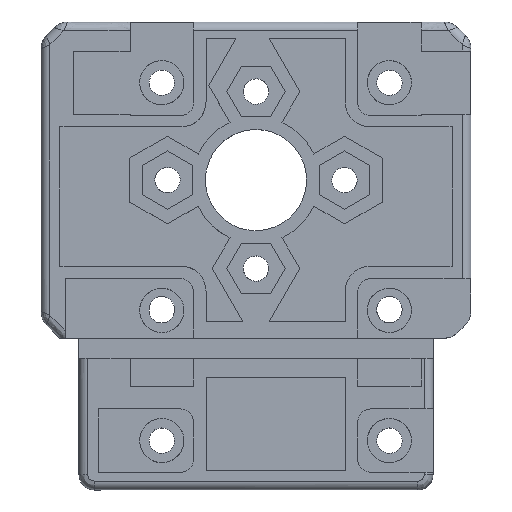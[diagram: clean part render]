
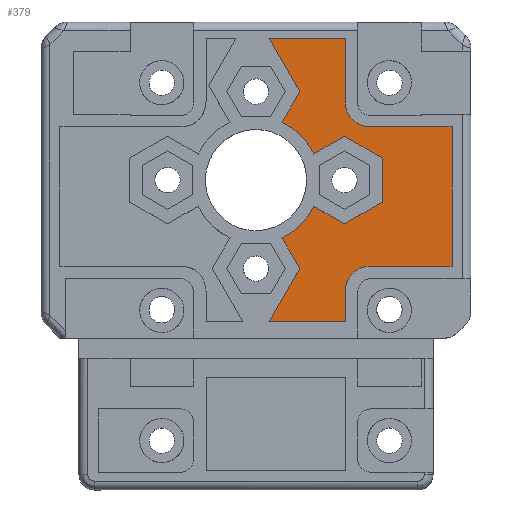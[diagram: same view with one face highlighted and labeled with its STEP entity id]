
A CAD part, top view. The second image highlights one B-rep face of the part: STEP entity #379.
In plain terms, the highlighted planar face has unit normal (0, 0, 1) as drawn and (0, 0, -1) by its records, which use the part's own axes.
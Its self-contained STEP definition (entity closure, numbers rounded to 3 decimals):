
#379=ADVANCED_FACE($,(#802),#5200,.T.);
#802=FACE_OUTER_BOUND($,#1225,.T.);
#1225=EDGE_LOOP($,(#3116,#3117,#3118,#3119,#3120,#3121,#3122,#3123,#3124,
#3125,#3126,#3127,#3128,#3129,#3130,#3131,#3132,#3133,#3134,#3135));
#3116=ORIENTED_EDGE($,*,*,#4161,.T.);
#3117=ORIENTED_EDGE($,*,*,#4180,.T.);
#3118=ORIENTED_EDGE($,*,*,#4179,.T.);
#3119=ORIENTED_EDGE($,*,*,#4178,.T.);
#3120=ORIENTED_EDGE($,*,*,#4177,.T.);
#3121=ORIENTED_EDGE($,*,*,#4176,.T.);
#3122=ORIENTED_EDGE($,*,*,#4175,.T.);
#3123=ORIENTED_EDGE($,*,*,#4174,.T.);
#3124=ORIENTED_EDGE($,*,*,#4173,.T.);
#3125=ORIENTED_EDGE($,*,*,#4172,.T.);
#3126=ORIENTED_EDGE($,*,*,#4171,.T.);
#3127=ORIENTED_EDGE($,*,*,#4170,.T.);
#3128=ORIENTED_EDGE($,*,*,#4169,.T.);
#3129=ORIENTED_EDGE($,*,*,#4168,.T.);
#3130=ORIENTED_EDGE($,*,*,#4167,.T.);
#3131=ORIENTED_EDGE($,*,*,#4166,.T.);
#3132=ORIENTED_EDGE($,*,*,#4165,.T.);
#3133=ORIENTED_EDGE($,*,*,#4164,.T.);
#3134=ORIENTED_EDGE($,*,*,#4163,.T.);
#3135=ORIENTED_EDGE($,*,*,#4162,.T.);
#4161=EDGE_CURVE($,#4825,#4826,#6166,.T.);
#4162=EDGE_CURVE($,#4827,#4825,#5417,.T.);
#4163=EDGE_CURVE($,#4828,#4827,#6167,.T.);
#4164=EDGE_CURVE($,#4829,#4828,#6168,.T.);
#4165=EDGE_CURVE($,#4830,#4829,#6169,.T.);
#4166=EDGE_CURVE($,#4831,#4830,#6170,.T.);
#4167=EDGE_CURVE($,#4832,#4831,#5418,.T.);
#4168=EDGE_CURVE($,#4833,#4832,#6171,.T.);
#4169=EDGE_CURVE($,#4834,#4833,#6172,.T.);
#4170=EDGE_CURVE($,#4835,#4834,#6173,.T.);
#4171=EDGE_CURVE($,#4836,#4835,#6174,.T.);
#4172=EDGE_CURVE($,#4837,#4836,#6175,.T.);
#4173=EDGE_CURVE($,#4838,#4837,#5419,.T.);
#4174=EDGE_CURVE($,#4839,#4838,#6176,.T.);
#4175=EDGE_CURVE($,#4840,#4839,#6177,.T.);
#4176=EDGE_CURVE($,#4841,#4840,#6178,.T.);
#4177=EDGE_CURVE($,#4842,#4841,#6179,.T.);
#4178=EDGE_CURVE($,#4843,#4842,#5420,.T.);
#4179=EDGE_CURVE($,#4844,#4843,#6180,.T.);
#4180=EDGE_CURVE($,#4826,#4844,#6181,.T.);
#4825=VERTEX_POINT($,#11544);
#4826=VERTEX_POINT($,#11545);
#4827=VERTEX_POINT($,#11546);
#4828=VERTEX_POINT($,#11547);
#4829=VERTEX_POINT($,#11548);
#4830=VERTEX_POINT($,#11549);
#4831=VERTEX_POINT($,#11550);
#4832=VERTEX_POINT($,#11551);
#4833=VERTEX_POINT($,#11552);
#4834=VERTEX_POINT($,#11553);
#4835=VERTEX_POINT($,#11554);
#4836=VERTEX_POINT($,#11555);
#4837=VERTEX_POINT($,#11556);
#4838=VERTEX_POINT($,#11557);
#4839=VERTEX_POINT($,#11558);
#4840=VERTEX_POINT($,#11559);
#4841=VERTEX_POINT($,#11560);
#4842=VERTEX_POINT($,#11561);
#4843=VERTEX_POINT($,#11562);
#4844=VERTEX_POINT($,#11563);
#5200=PLANE($,#6471);
#5417=(
BOUNDED_CURVE()
B_SPLINE_CURVE(2,(#9219,#9220,#9221),.UNSPECIFIED.,.F.,.F.)
B_SPLINE_CURVE_WITH_KNOTS((3,3),(0.,3.142),.UNSPECIFIED.)
CURVE()
GEOMETRIC_REPRESENTATION_ITEM()
RATIONAL_B_SPLINE_CURVE((1.,0.707,1.))
REPRESENTATION_ITEM($)
);
#5418=(
BOUNDED_CURVE()
B_SPLINE_CURVE(2,(#9230,#9231,#9232),.UNSPECIFIED.,.F.,.F.)
B_SPLINE_CURVE_WITH_KNOTS((3,3),(0.,3.62),.UNSPECIFIED.)
CURVE()
GEOMETRIC_REPRESENTATION_ITEM()
RATIONAL_B_SPLINE_CURVE((1.,0.935,1.))
REPRESENTATION_ITEM($)
);
#5419=(
BOUNDED_CURVE()
B_SPLINE_CURVE(2,(#9243,#9244,#9245),.UNSPECIFIED.,.F.,.F.)
B_SPLINE_CURVE_WITH_KNOTS((3,3),(0.,3.62),.UNSPECIFIED.)
CURVE()
GEOMETRIC_REPRESENTATION_ITEM()
RATIONAL_B_SPLINE_CURVE((1.,0.935,1.))
REPRESENTATION_ITEM($)
);
#5420=(
BOUNDED_CURVE()
B_SPLINE_CURVE(2,(#9254,#9255,#9256),.UNSPECIFIED.,.F.,.F.)
B_SPLINE_CURVE_WITH_KNOTS((3,3),(0.,3.142),.UNSPECIFIED.)
CURVE()
GEOMETRIC_REPRESENTATION_ITEM()
RATIONAL_B_SPLINE_CURVE((1.,0.707,1.))
REPRESENTATION_ITEM($)
);
#6166=B_SPLINE_CURVE_WITH_KNOTS($,1,(#9217,#9218),.UNSPECIFIED.,.F.,.F.,
(2,2),(0.,6.449),.UNSPECIFIED.);
#6167=B_SPLINE_CURVE_WITH_KNOTS($,1,(#9222,#9223),.UNSPECIFIED.,.F.,.F.,
(2,2),(0.,2.4),.UNSPECIFIED.);
#6168=B_SPLINE_CURVE_WITH_KNOTS($,1,(#9224,#9225),.UNSPECIFIED.,.F.,.F.,
(2,2),(0.,6.011),.UNSPECIFIED.);
#6169=B_SPLINE_CURVE_WITH_KNOTS($,1,(#9226,#9227),.UNSPECIFIED.,.F.,.F.,
(2,2),(0.,4.85),.UNSPECIFIED.);
#6170=B_SPLINE_CURVE_WITH_KNOTS($,1,(#9228,#9229),.UNSPECIFIED.,.F.,.F.,
(2,2),(0.,2.819),.UNSPECIFIED.);
#6171=B_SPLINE_CURVE_WITH_KNOTS($,1,(#9233,#9234),.UNSPECIFIED.,.F.,.F.,
(2,2),(0.,2.819),.UNSPECIFIED.);
#6172=B_SPLINE_CURVE_WITH_KNOTS($,1,(#9235,#9236),.UNSPECIFIED.,.F.,.F.,
(2,2),(0.,3.464),.UNSPECIFIED.);
#6173=B_SPLINE_CURVE_WITH_KNOTS($,1,(#9237,#9238),.UNSPECIFIED.,.F.,.F.,
(2,2),(0.,3.464),.UNSPECIFIED.);
#6174=B_SPLINE_CURVE_WITH_KNOTS($,1,(#9239,#9240),.UNSPECIFIED.,.F.,.F.,
(2,2),(0.,3.464),.UNSPECIFIED.);
#6175=B_SPLINE_CURVE_WITH_KNOTS($,1,(#9241,#9242),.UNSPECIFIED.,.F.,.F.,
(2,2),(0.,2.819),.UNSPECIFIED.);
#6176=B_SPLINE_CURVE_WITH_KNOTS($,1,(#9246,#9247),.UNSPECIFIED.,.F.,.F.,
(2,2),(0.,2.819),.UNSPECIFIED.);
#6177=B_SPLINE_CURVE_WITH_KNOTS($,1,(#9248,#9249),.UNSPECIFIED.,.F.,.F.,
(2,2),(0.,4.85),.UNSPECIFIED.);
#6178=B_SPLINE_CURVE_WITH_KNOTS($,1,(#9250,#9251),.UNSPECIFIED.,.F.,.F.,
(2,2),(0.,6.011),.UNSPECIFIED.);
#6179=B_SPLINE_CURVE_WITH_KNOTS($,1,(#9252,#9253),.UNSPECIFIED.,.F.,.F.,
(2,2),(0.,5.),.UNSPECIFIED.);
#6180=B_SPLINE_CURVE_WITH_KNOTS($,1,(#9257,#9258),.UNSPECIFIED.,.F.,.F.,
(2,2),(0.,6.449),.UNSPECIFIED.);
#6181=B_SPLINE_CURVE_WITH_KNOTS($,1,(#9259,#9260),.UNSPECIFIED.,.F.,.F.,
(2,2),(0.,11.),.UNSPECIFIED.);
#6471=AXIS2_PLACEMENT_3D($,#10879,#6722,$);
#6722=DIRECTION($,(0.,0.,-1.));
#9217=CARTESIAN_POINT($,(-9.05,-6.8,-1.));
#9218=CARTESIAN_POINT($,(-15.499,-6.8,-1.));
#9219=CARTESIAN_POINT($,(-7.05,-8.8,-1.));
#9220=CARTESIAN_POINT($,(-7.05,-6.8,-1.));
#9221=CARTESIAN_POINT($,(-9.05,-6.8,-1.));
#9222=CARTESIAN_POINT($,(-7.05,-11.2,-1.));
#9223=CARTESIAN_POINT($,(-7.05,-8.8,-1.));
#9224=CARTESIAN_POINT($,(-1.039,-11.2,-1.));
#9225=CARTESIAN_POINT($,(-7.05,-11.2,-1.));
#9226=CARTESIAN_POINT($,(-3.464,-7.,-1.));
#9227=CARTESIAN_POINT($,(-1.039,-11.2,-1.));
#9228=CARTESIAN_POINT($,(-2.054,-4.558,-1.));
#9229=CARTESIAN_POINT($,(-3.464,-7.,-1.));
#9230=CARTESIAN_POINT($,(-4.558,-2.054,-1.));
#9231=CARTESIAN_POINT($,(-3.781,-3.78,-1.));
#9232=CARTESIAN_POINT($,(-2.054,-4.558,-1.));
#9233=CARTESIAN_POINT($,(-7.,-3.464,-1.));
#9234=CARTESIAN_POINT($,(-4.558,-2.054,-1.));
#9235=CARTESIAN_POINT($,(-10.,-1.732,-1.));
#9236=CARTESIAN_POINT($,(-7.,-3.464,-1.));
#9237=CARTESIAN_POINT($,(-10.,1.732,-1.));
#9238=CARTESIAN_POINT($,(-10.,-1.732,-1.));
#9239=CARTESIAN_POINT($,(-7.,3.464,-1.));
#9240=CARTESIAN_POINT($,(-10.,1.732,-1.));
#9241=CARTESIAN_POINT($,(-4.558,2.054,-1.));
#9242=CARTESIAN_POINT($,(-7.,3.464,-1.));
#9243=CARTESIAN_POINT($,(-2.054,4.558,-1.));
#9244=CARTESIAN_POINT($,(-3.781,3.781,-1.));
#9245=CARTESIAN_POINT($,(-4.558,2.054,-1.));
#9246=CARTESIAN_POINT($,(-3.464,7.,-1.));
#9247=CARTESIAN_POINT($,(-2.054,4.558,-1.));
#9248=CARTESIAN_POINT($,(-1.039,11.2,-1.));
#9249=CARTESIAN_POINT($,(-3.464,7.,-1.));
#9250=CARTESIAN_POINT($,(-7.05,11.2,-1.));
#9251=CARTESIAN_POINT($,(-1.039,11.2,-1.));
#9252=CARTESIAN_POINT($,(-7.05,6.2,-1.));
#9253=CARTESIAN_POINT($,(-7.05,11.2,-1.));
#9254=CARTESIAN_POINT($,(-9.05,4.2,-1.));
#9255=CARTESIAN_POINT($,(-7.05,4.2,-1.));
#9256=CARTESIAN_POINT($,(-7.05,6.2,-1.));
#9257=CARTESIAN_POINT($,(-15.5,4.2,-1.));
#9258=CARTESIAN_POINT($,(-9.05,4.2,-1.));
#9259=CARTESIAN_POINT($,(-15.499,-6.8,-1.));
#9260=CARTESIAN_POINT($,(-15.5,4.2,-1.));
#10879=CARTESIAN_POINT($,(-15.5,-11.2,-1.));
#11544=CARTESIAN_POINT($,(-9.05,-6.8,-1.));
#11545=CARTESIAN_POINT($,(-15.499,-6.8,-1.));
#11546=CARTESIAN_POINT($,(-7.05,-8.8,-1.));
#11547=CARTESIAN_POINT($,(-7.05,-11.2,-1.));
#11548=CARTESIAN_POINT($,(-1.039,-11.2,-1.));
#11549=CARTESIAN_POINT($,(-3.464,-7.,-1.));
#11550=CARTESIAN_POINT($,(-2.054,-4.558,-1.));
#11551=CARTESIAN_POINT($,(-4.558,-2.054,-1.));
#11552=CARTESIAN_POINT($,(-7.,-3.464,-1.));
#11553=CARTESIAN_POINT($,(-10.,-1.732,-1.));
#11554=CARTESIAN_POINT($,(-10.,1.732,-1.));
#11555=CARTESIAN_POINT($,(-7.,3.464,-1.));
#11556=CARTESIAN_POINT($,(-4.558,2.054,-1.));
#11557=CARTESIAN_POINT($,(-2.054,4.558,-1.));
#11558=CARTESIAN_POINT($,(-3.464,7.,-1.));
#11559=CARTESIAN_POINT($,(-1.039,11.2,-1.));
#11560=CARTESIAN_POINT($,(-7.05,11.2,-1.));
#11561=CARTESIAN_POINT($,(-7.05,6.2,-1.));
#11562=CARTESIAN_POINT($,(-9.05,4.2,-1.));
#11563=CARTESIAN_POINT($,(-15.5,4.2,-1.));
